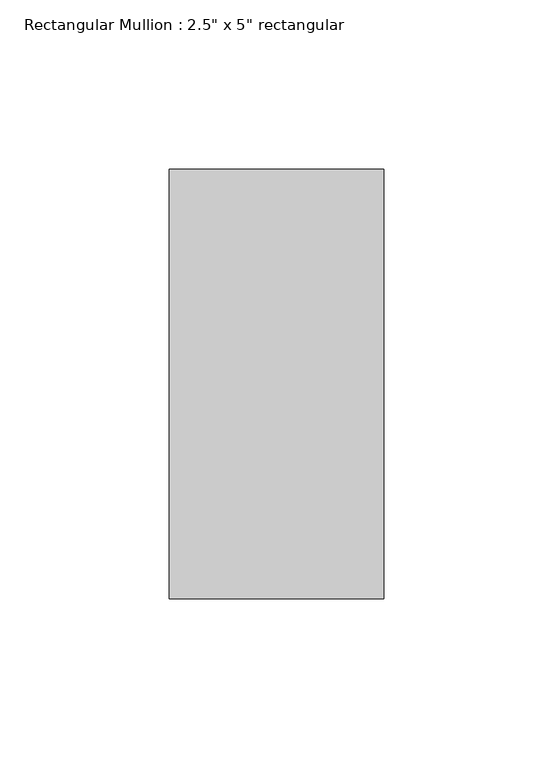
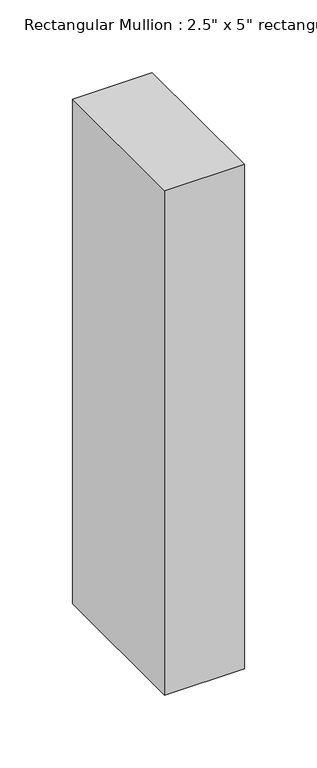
"""IFC4 building model written with IfcOpenShell, lengths in millimetres: member geometry."""

from ifc_helpers import new_model, si_unit, frame, origin, place, context, project, spatial, polyline, outline, extrude, source, transform, mapped, element, save


def member_c8fdef67(model_context):
    return source(origin(), model_context, "Body", "SweptSolid", [
        extrude(outline(polyline([(31.75, 63.5), (31.75, -63.5), (-31.75, -63.5), (-31.75, 63.5), (31.75, 63.5)])), frame((0.0, 0.0, -424.3472658), z_axis=(0.0, 0.0, 1.0), x_axis=(1.0, 0.0, 0.0)), (0.0, 0.0, 1.0), 424.3472658),
    ])


if __name__ == "__main__":
    model = new_model("IFC4")
    model_context = context("Model", 3, world=origin())
    ifc_project = project(units=[si_unit("LENGTHUNIT", "METRE", prefix="MILLI")], contexts=[model_context])
    site = spatial("IfcSite", under=ifc_project)
    building = spatial("IfcBuilding", under=site)
    placement = place(None, origin())
    member_shape = member_c8fdef67(model_context)
    element("IfcMember", 1, ObjectType="Rectangular Mullion : 2.5\" x 5\" rectangular", at=placement, inside=building, context=model_context, shape_type="MappedRepresentation", body=[
        mapped(member_shape, transform((0.0, 0.0, 0.0), x_axis=(1.0, 0.0, 0.0), y_axis=(0.0, 1.0, 0.0), z_axis=(0.0, 0.0, 1.0))),
    ])
    save(model, "model.ifc")
